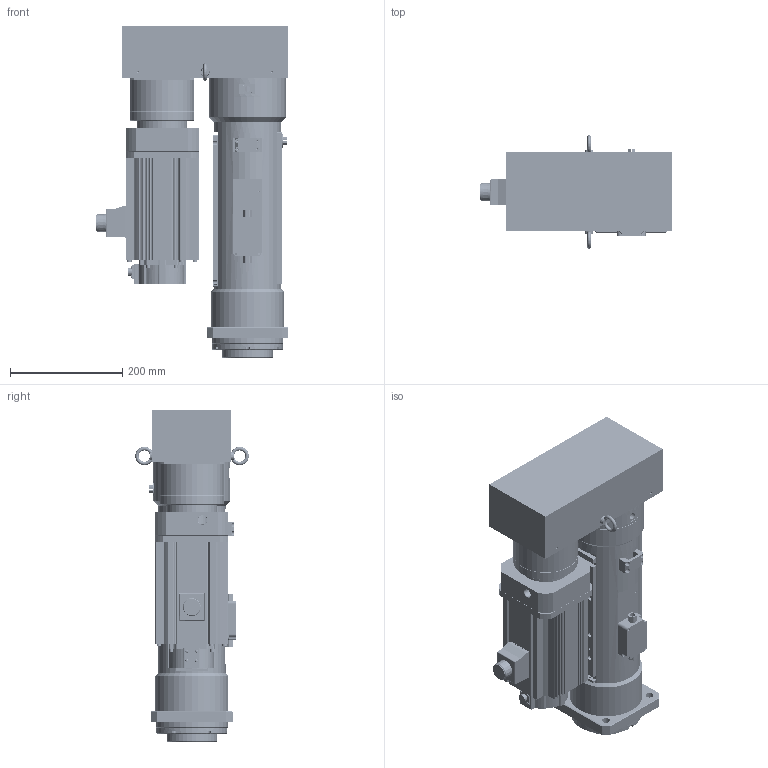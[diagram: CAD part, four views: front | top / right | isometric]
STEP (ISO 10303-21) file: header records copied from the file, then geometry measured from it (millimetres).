
FILE_DESCRIPTION( ('This file contains a STEP AP42 implementation' ,'as created by ZW3D STEP Interface translator.') ,'2;1' );
FILE_NAME( 'OACIS-DC-P035-P040-200-180-A6V200_V20.51.stp' ,'26 424.13 0 4', (''), ('ZWCAD Software Co.'), 'Version 1.0', 'ZW3D to STEP translator', '' );
FILE_SCHEMA(('AUTOMOTIVE_DESIGN { 1 0 10303 214 1 1 1 1 }'));
Length unit declared in the file: millimetre
Products named in the file (1): 0
Bounding box: 342.5 x 202.25 x 591 mm (x, y, z)
Volume: 11515067.8 mm3; surface area: 1875520.4 mm2
Topology: 55 solids, 55 shells, 3362 faces, 8626 edges, 5522 vertices
Faces by surface type: cylinder 1649, plane 1236, cone 343, torus 101, bspline 29, sphere 4
Full cylindrical faces by diameter (mm): 1.567 x4, 2 x1, 2.459 x1, 3.3 x66, 4.2 x4, 4.3 x19, 4.5 x14, 4.917 x20, 5 x1, 5.3 x4, 5.5 x4, 6 x8, 6.5 x4, 6.647 x6, 6.8 x41, 7 x4, 8 x21, 8.4 x8, 8.5 x4, 9 x26, 9.5 x4, 9.78 x8, 10 x3, 10.1 x4, 10.106 x1, 10.2 x16, 10.5 x4, 12 x1, 14 x4, 14.8 x1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
Entity records: 118464 total; most frequent: CARTESIAN_POINT 26972, DIRECTION 19176, ORIENTED_EDGE 17056, EDGE_CURVE 8528, AXIS2_PLACEMENT_3D 7637, VERTEX_POINT 5519, CIRCLE 4284, EDGE_LOOP 3977
